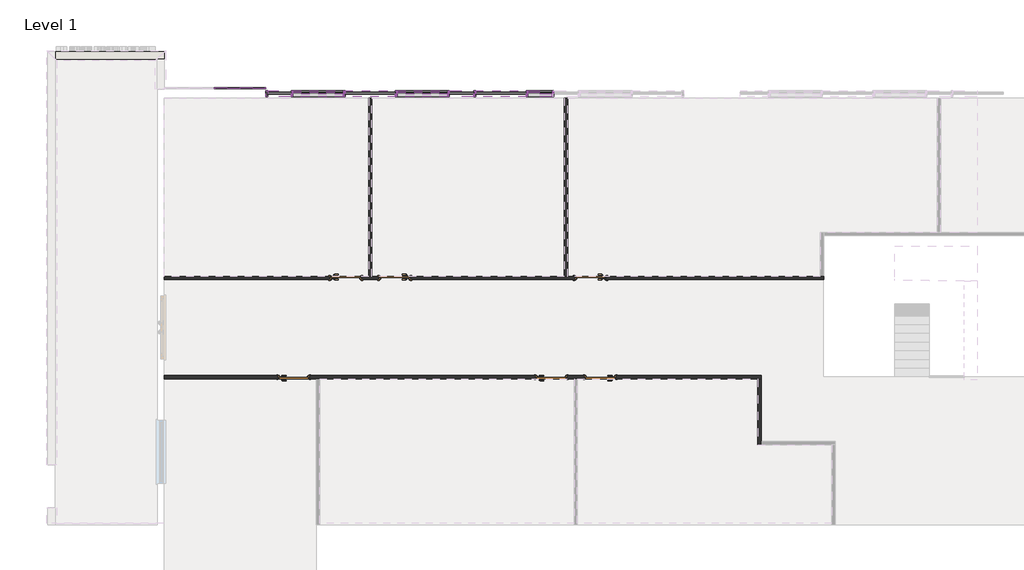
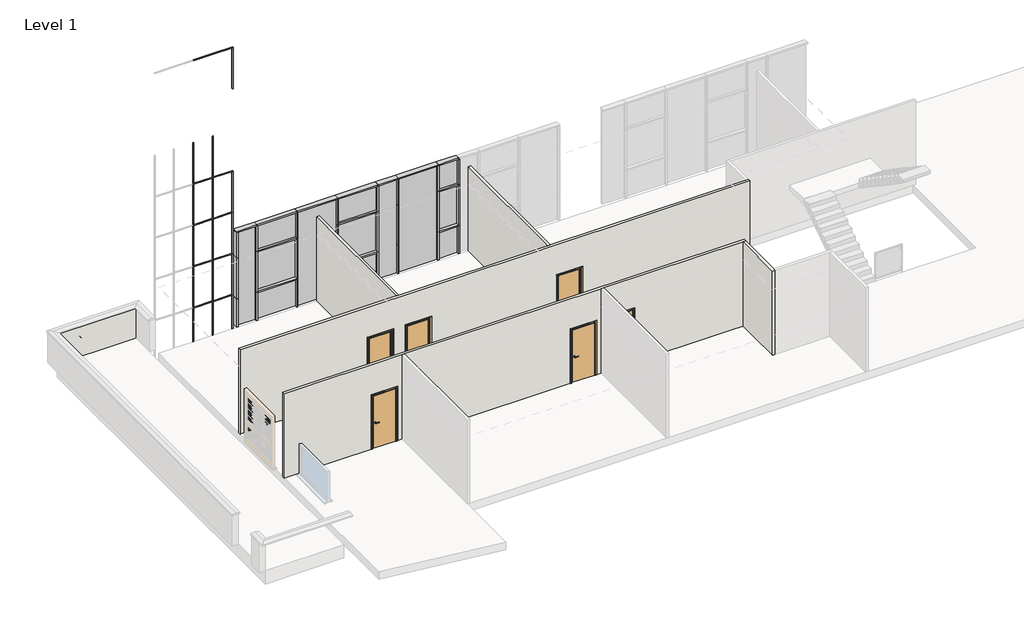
# One storey, part 4 of 10: 75 members, 13 plates, 6 doors, 6 walls.
"""IFC4 building model written with IfcOpenShell, lengths in millimetres."""

from ifc_helpers import new_model, si_unit, frame, origin, place, context, project, spatial, polyline, outline, extrude, faceted_brep, transform, mapped, element, save
from components import doors_intsgl_1_910x2110mm_004a08d5, doors_intsgl_1_910x2110mm_ba118736, rectangular_mullion_25x25mm_c4f1ea1c, rectangular_mullion_25x25mm_aa09272d, rectangular_mullion_25x25mm_87b81b05, rectangular_mullion_25x25mm_c524c6a9, rectangular_mullion_25x25mm_a3ff25c1, rectangular_mullion_25x25mm_a7b21d2d, rectangular_mullion_25x25mm_c63ed219, rectangular_mullion_50x180mm_27940352, rectangular_mullion_50x180mm_f781141c, rectangular_mullion_50x180mm_fd91253e, rectangular_mullion_50x180mm_cfc9efda, rectangular_mullion_50x180mm_c30fec06, rectangular_mullion_50x180mm_55b63a96, rectangular_mullion_50x180mm_7153291d, rectangular_mullion_50x180mm_95299f7d, rectangular_mullion_50x180mm_f19e9633, rectangular_mullion_50x180mm_b6846536, system_panel_black_panel_9c91f909, system_panel_black_panel_9e4711d2, system_panel_dark_grey_panel_1d6e0621, system_panel_glazed_dd63f223, system_panel_glazed_4915e1a0, system_panel_white_panel_6a64f577, system_panel_white_panel_a9ca731a, system_panel_white_panel_6c6c8c82, system_panel_white_panel_ff540c20

model = new_model("IFC4")

# Units and contexts
model_context = context("Model", 3, world=origin())
ifc_project = project(units=[si_unit("LENGTHUNIT", "METRE", prefix="MILLI")], contexts=[model_context])

# Site, building, storey
site = spatial("IfcSite", under=ifc_project)
building = spatial("IfcBuilding", under=site)
storey = spatial("IfcBuildingStorey", under=building, Name="Level 1", Elevation=3750.0)

# Doors
placement = place(None, origin())
doors_intsgl_1_910x2110mm_shape = doors_intsgl_1_910x2110mm_004a08d5(model_context)
element("IfcDoor", 1, ObjectType="Doors_IntSgl_1 : 910x2110mm", at=placement, inside=storey, context=model_context, shape_type="MappedRepresentation", body=[
    mapped(doors_intsgl_1_910x2110mm_shape, transform((3778.2942367, 3837.3025486, 3750.0), x_axis=(1.0, 0.0, 0.0), y_axis=(0.0, 1.0, 0.0), z_axis=(0.0, 0.0, 1.0))),
])
element("IfcDoor", 2, ObjectType="Doors_IntSgl_1 : 910x2110mm", at=placement, inside=storey, context=model_context, shape_type="MappedRepresentation", body=[
    mapped(doors_intsgl_1_910x2110mm_shape, transform((11085.7942367, 987.4946591, 3750.0), x_axis=(-1.0, 0.0, 0.0), y_axis=(0.0, -1.0, 0.0), z_axis=(0.0, 0.0, 1.0))),
])
doors_intsgl_1_910x2110mm_2_shape = doors_intsgl_1_910x2110mm_ba118736(model_context)
element("IfcDoor", 3, ObjectType="Doors_IntSgl_1 : 910x2110mm", at=placement, inside=storey, context=model_context, shape_type="MappedRepresentation", body=[
    mapped(doors_intsgl_1_910x2110mm_2_shape, transform((5183.2942367, 3837.3025486, 3750.0), x_axis=(-1.0, 0.0, 0.0), y_axis=(0.0, -1.0, 0.0), z_axis=(0.0, 0.0, 1.0))),
])
element("IfcDoor", 4, ObjectType="Doors_IntSgl_1 : 910x2110mm", at=placement, inside=storey, context=model_context, shape_type="MappedRepresentation", body=[
    mapped(doors_intsgl_1_910x2110mm_2_shape, transform((10808.2942367, 3837.3025486, 3750.0), x_axis=(-1.0, 0.0, 0.0), y_axis=(0.0, -1.0, 0.0), z_axis=(0.0, 0.0, 1.0))),
])
element("IfcDoor", 5, ObjectType="Doors_IntSgl_1 : 910x2110mm", at=placement, inside=storey, context=model_context, shape_type="MappedRepresentation", body=[
    mapped(doors_intsgl_1_910x2110mm_2_shape, transform((9680.7942367, 987.4946591, 3750.0), x_axis=(1.0, 0.0, 0.0), y_axis=(0.0, 1.0, 0.0), z_axis=(0.0, 0.0, 1.0))),
])
element("IfcDoor", 6, ObjectType="Doors_IntSgl_1 : 910x2110mm", at=placement, inside=storey, context=model_context, shape_type="MappedRepresentation", body=[
    mapped(doors_intsgl_1_910x2110mm_2_shape, transform((2280.7942367, 987.4946591, 3750.0), x_axis=(1.0, 0.0, 0.0), y_axis=(0.0, 1.0, 0.0), z_axis=(0.0, 0.0, 1.0))),
])

# Members
rectangular_mullion_25x25mm_shape = rectangular_mullion_25x25mm_c4f1ea1c(model_context)
element("IfcMember", 7, ObjectType="Rectangular Mullion : 25x25mm", at=placement, inside=storey, context=model_context, shape_type="MappedRepresentation", body=[
    mapped(rectangular_mullion_25x25mm_shape, transform((740.7900968, 9282.4946591, 14600.0), x_axis=(0.0, 0.0, 1.0), y_axis=(0.0, 1.0, 0.0), z_axis=(-1.0, 0.0, 0.0))),
])
rectangular_mullion_25x25mm_2_shape = rectangular_mullion_25x25mm_aa09272d(model_context)
element("IfcMember", 8, ObjectType="Rectangular Mullion : 25x25mm", at=placement, inside=storey, context=model_context, shape_type="MappedRepresentation", body=[
    mapped(rectangular_mullion_25x25mm_2_shape, transform((13.2859573, 9282.4946591, 14600.0), x_axis=(0.0, 0.0, 1.0), y_axis=(0.0, 1.0, 0.0), z_axis=(-1.0, 0.0, 0.0))),
])
element("IfcMember", 9, ObjectType="Rectangular Mullion : 25x25mm", at=placement, inside=storey, context=model_context, shape_type="MappedRepresentation", body=[
    mapped(rectangular_mullion_25x25mm_shape, transform((1480.7942367, 9282.4946591, 0.0), x_axis=(0.0, 0.0, -1.0), y_axis=(0.0, 1.0, 0.0), z_axis=(1.0, 0.0, 0.0))),
])
element("IfcMember", 10, ObjectType="Rectangular Mullion : 25x25mm", at=placement, inside=storey, context=model_context, shape_type="MappedRepresentation", body=[
    mapped(rectangular_mullion_25x25mm_2_shape, transform((740.7900968, 9282.4946591, 0.0), x_axis=(0.0, 0.0, -1.0), y_axis=(0.0, 1.0, 0.0), z_axis=(1.0, 0.0, 0.0))),
])
element("IfcMember", 11, ObjectType="Rectangular Mullion : 25x25mm", at=placement, inside=storey, context=model_context, shape_type="MappedRepresentation", body=[
    mapped(rectangular_mullion_25x25mm_2_shape, transform((13.2859573, 9282.4946591, 0.0), x_axis=(0.0, 0.0, -1.0), y_axis=(0.0, 1.0, 0.0), z_axis=(1.0, 0.0, 0.0))),
])
rectangular_mullion_25x25mm_3_shape = rectangular_mullion_25x25mm_87b81b05(model_context)
element("IfcMember", 12, ObjectType="Rectangular Mullion : 25x25mm", at=placement, inside=storey, context=model_context, shape_type="MappedRepresentation", body=[
    mapped(rectangular_mullion_25x25mm_3_shape, transform((753.2900968, 9282.4946591, 1631.9444444), x_axis=(0.0, 0.0, 1.0), y_axis=(0.0, 1.0, 0.0), z_axis=(-1.0, 0.0, 0.0))),
])
element("IfcMember", 13, ObjectType="Rectangular Mullion : 25x25mm", at=placement, inside=storey, context=model_context, shape_type="MappedRepresentation", body=[
    mapped(rectangular_mullion_25x25mm_3_shape, transform((25.7859573, 9282.4946591, 1631.9444444), x_axis=(0.0, 0.0, 1.0), y_axis=(0.0, 1.0, 0.0), z_axis=(-1.0, 0.0, 0.0))),
])
element("IfcMember", 14, ObjectType="Rectangular Mullion : 25x25mm", at=placement, inside=storey, context=model_context, shape_type="MappedRepresentation", body=[
    mapped(rectangular_mullion_25x25mm_3_shape, transform((753.2900968, 9282.4946591, 3251.3888889), x_axis=(0.0, 0.0, 1.0), y_axis=(0.0, 1.0, 0.0), z_axis=(-1.0, 0.0, 0.0))),
])
element("IfcMember", 15, ObjectType="Rectangular Mullion : 25x25mm", at=placement, inside=storey, context=model_context, shape_type="MappedRepresentation", body=[
    mapped(rectangular_mullion_25x25mm_3_shape, transform((25.7859573, 9282.4946591, 3251.3888889), x_axis=(0.0, 0.0, 1.0), y_axis=(0.0, 1.0, 0.0), z_axis=(-1.0, 0.0, 0.0))),
])
element("IfcMember", 16, ObjectType="Rectangular Mullion : 25x25mm", at=placement, inside=storey, context=model_context, shape_type="MappedRepresentation", body=[
    mapped(rectangular_mullion_25x25mm_3_shape, transform((753.2900968, 9282.4946591, 4870.8333333), x_axis=(0.0, 0.0, 1.0), y_axis=(0.0, 1.0, 0.0), z_axis=(-1.0, 0.0, 0.0))),
])
element("IfcMember", 17, ObjectType="Rectangular Mullion : 25x25mm", at=placement, inside=storey, context=model_context, shape_type="MappedRepresentation", body=[
    mapped(rectangular_mullion_25x25mm_3_shape, transform((25.7859573, 9282.4946591, 4870.8333333), x_axis=(0.0, 0.0, 1.0), y_axis=(0.0, 1.0, 0.0), z_axis=(-1.0, 0.0, 0.0))),
])
element("IfcMember", 18, ObjectType="Rectangular Mullion : 25x25mm", at=placement, inside=storey, context=model_context, shape_type="MappedRepresentation", body=[
    mapped(rectangular_mullion_25x25mm_3_shape, transform((753.2900968, 9282.4946591, 6490.2777778), x_axis=(0.0, 0.0, 1.0), y_axis=(0.0, 1.0, 0.0), z_axis=(-1.0, 0.0, 0.0))),
])
element("IfcMember", 19, ObjectType="Rectangular Mullion : 25x25mm", at=placement, inside=storey, context=model_context, shape_type="MappedRepresentation", body=[
    mapped(rectangular_mullion_25x25mm_3_shape, transform((25.7859573, 9282.4946591, 6490.2777778), x_axis=(0.0, 0.0, 1.0), y_axis=(0.0, 1.0, 0.0), z_axis=(-1.0, 0.0, 0.0))),
])
element("IfcMember", 20, ObjectType="Rectangular Mullion : 25x25mm", at=placement, inside=storey, context=model_context, shape_type="MappedRepresentation", body=[
    mapped(rectangular_mullion_25x25mm_3_shape, transform((753.2900968, 9282.4946591, 8109.7222222), x_axis=(0.0, 0.0, 1.0), y_axis=(0.0, 1.0, 0.0), z_axis=(-1.0, 0.0, 0.0))),
])
element("IfcMember", 21, ObjectType="Rectangular Mullion : 25x25mm", at=placement, inside=storey, context=model_context, shape_type="MappedRepresentation", body=[
    mapped(rectangular_mullion_25x25mm_3_shape, transform((25.7859573, 9282.4946591, 8109.7222222), x_axis=(0.0, 0.0, 1.0), y_axis=(0.0, 1.0, 0.0), z_axis=(-1.0, 0.0, 0.0))),
])
element("IfcMember", 22, ObjectType="Rectangular Mullion : 25x25mm", at=placement, inside=storey, context=model_context, shape_type="MappedRepresentation", body=[
    mapped(rectangular_mullion_25x25mm_3_shape, transform((753.2900968, 9282.4946591, 9729.1666667), x_axis=(0.0, 0.0, 1.0), y_axis=(0.0, 1.0, 0.0), z_axis=(-1.0, 0.0, 0.0))),
])
element("IfcMember", 23, ObjectType="Rectangular Mullion : 25x25mm", at=placement, inside=storey, context=model_context, shape_type="MappedRepresentation", body=[
    mapped(rectangular_mullion_25x25mm_3_shape, transform((25.7859573, 9282.4946591, 9729.1666667), x_axis=(0.0, 0.0, 1.0), y_axis=(0.0, 1.0, 0.0), z_axis=(-1.0, 0.0, 0.0))),
])
rectangular_mullion_25x25mm_4_shape = rectangular_mullion_25x25mm_c524c6a9(model_context)
element("IfcMember", 24, ObjectType="Rectangular Mullion : 25x25mm", at=placement, inside=storey, context=model_context, shape_type="MappedRepresentation", body=[
    mapped(rectangular_mullion_25x25mm_4_shape, transform((740.7900968, 9282.4946591, 25.0), x_axis=(-1.0, 0.0, 0.0), y_axis=(0.0, 1.0, 0.0), z_axis=(0.0, 0.0, -1.0))),
])
element("IfcMember", 25, ObjectType="Rectangular Mullion : 25x25mm", at=placement, inside=storey, context=model_context, shape_type="MappedRepresentation", body=[
    mapped(rectangular_mullion_25x25mm_4_shape, transform((13.2859573, 9282.4946591, 25.0), x_axis=(-1.0, 0.0, 0.0), y_axis=(0.0, 1.0, 0.0), z_axis=(0.0, 0.0, -1.0))),
])
rectangular_mullion_25x25mm_5_shape = rectangular_mullion_25x25mm_a3ff25c1(model_context)
element("IfcMember", 26, ObjectType="Rectangular Mullion : 25x25mm", at=placement, inside=storey, context=model_context, shape_type="MappedRepresentation", body=[
    mapped(rectangular_mullion_25x25mm_5_shape, transform((740.7900968, 9282.4946591, 1631.9444444), x_axis=(-1.0, 0.0, 0.0), y_axis=(0.0, 1.0, 0.0), z_axis=(0.0, 0.0, -1.0))),
])
element("IfcMember", 27, ObjectType="Rectangular Mullion : 25x25mm", at=placement, inside=storey, context=model_context, shape_type="MappedRepresentation", body=[
    mapped(rectangular_mullion_25x25mm_5_shape, transform((740.7900968, 9282.4946591, 3251.3888889), x_axis=(-1.0, 0.0, 0.0), y_axis=(0.0, 1.0, 0.0), z_axis=(0.0, 0.0, -1.0))),
])
element("IfcMember", 28, ObjectType="Rectangular Mullion : 25x25mm", at=placement, inside=storey, context=model_context, shape_type="MappedRepresentation", body=[
    mapped(rectangular_mullion_25x25mm_5_shape, transform((740.7900968, 9282.4946591, 4870.8333333), x_axis=(-1.0, 0.0, 0.0), y_axis=(0.0, 1.0, 0.0), z_axis=(0.0, 0.0, -1.0))),
])
element("IfcMember", 29, ObjectType="Rectangular Mullion : 25x25mm", at=placement, inside=storey, context=model_context, shape_type="MappedRepresentation", body=[
    mapped(rectangular_mullion_25x25mm_5_shape, transform((740.7900968, 9282.4946591, 6490.2777778), x_axis=(-1.0, 0.0, 0.0), y_axis=(0.0, 1.0, 0.0), z_axis=(0.0, 0.0, -1.0))),
])
element("IfcMember", 30, ObjectType="Rectangular Mullion : 25x25mm", at=placement, inside=storey, context=model_context, shape_type="MappedRepresentation", body=[
    mapped(rectangular_mullion_25x25mm_5_shape, transform((13.2859573, 9282.4946591, 1631.9444444), x_axis=(-1.0, 0.0, 0.0), y_axis=(0.0, 1.0, 0.0), z_axis=(0.0, 0.0, -1.0))),
])
element("IfcMember", 31, ObjectType="Rectangular Mullion : 25x25mm", at=placement, inside=storey, context=model_context, shape_type="MappedRepresentation", body=[
    mapped(rectangular_mullion_25x25mm_5_shape, transform((13.2859573, 9282.4946591, 3251.3888889), x_axis=(-1.0, 0.0, 0.0), y_axis=(0.0, 1.0, 0.0), z_axis=(0.0, 0.0, -1.0))),
])
element("IfcMember", 32, ObjectType="Rectangular Mullion : 25x25mm", at=placement, inside=storey, context=model_context, shape_type="MappedRepresentation", body=[
    mapped(rectangular_mullion_25x25mm_5_shape, transform((13.2859573, 9282.4946591, 4870.8333333), x_axis=(-1.0, 0.0, 0.0), y_axis=(0.0, 1.0, 0.0), z_axis=(0.0, 0.0, -1.0))),
])
element("IfcMember", 33, ObjectType="Rectangular Mullion : 25x25mm", at=placement, inside=storey, context=model_context, shape_type="MappedRepresentation", body=[
    mapped(rectangular_mullion_25x25mm_5_shape, transform((13.2859573, 9282.4946591, 6490.2777778), x_axis=(-1.0, 0.0, 0.0), y_axis=(0.0, 1.0, 0.0), z_axis=(0.0, 0.0, -1.0))),
])
element("IfcMember", 34, ObjectType="Rectangular Mullion : 25x25mm", at=placement, inside=storey, context=model_context, shape_type="MappedRepresentation", body=[
    mapped(rectangular_mullion_25x25mm_5_shape, transform((740.7900968, 9282.4946591, 8109.7222222), x_axis=(-1.0, 0.0, 0.0), y_axis=(0.0, 1.0, 0.0), z_axis=(0.0, 0.0, -1.0))),
])
element("IfcMember", 35, ObjectType="Rectangular Mullion : 25x25mm", at=placement, inside=storey, context=model_context, shape_type="MappedRepresentation", body=[
    mapped(rectangular_mullion_25x25mm_5_shape, transform((740.7900968, 9282.4946591, 9729.1666667), x_axis=(-1.0, 0.0, 0.0), y_axis=(0.0, 1.0, 0.0), z_axis=(0.0, 0.0, -1.0))),
])
element("IfcMember", 36, ObjectType="Rectangular Mullion : 25x25mm", at=placement, inside=storey, context=model_context, shape_type="MappedRepresentation", body=[
    mapped(rectangular_mullion_25x25mm_5_shape, transform((13.2859573, 9282.4946591, 8109.7222222), x_axis=(-1.0, 0.0, 0.0), y_axis=(0.0, 1.0, 0.0), z_axis=(0.0, 0.0, -1.0))),
])
element("IfcMember", 37, ObjectType="Rectangular Mullion : 25x25mm", at=placement, inside=storey, context=model_context, shape_type="MappedRepresentation", body=[
    mapped(rectangular_mullion_25x25mm_5_shape, transform((13.2859573, 9282.4946591, 9729.1666667), x_axis=(-1.0, 0.0, 0.0), y_axis=(0.0, 1.0, 0.0), z_axis=(0.0, 0.0, -1.0))),
])
rectangular_mullion_25x25mm_6_shape = rectangular_mullion_25x25mm_a7b21d2d(model_context)
element("IfcMember", 38, ObjectType="Rectangular Mullion : 25x25mm", at=placement, inside=storey, context=model_context, shape_type="MappedRepresentation", body=[
    mapped(rectangular_mullion_25x25mm_6_shape, transform((1480.7942367, 9282.4946591, 1631.9444444), x_axis=(1.0, 0.0, 0.0), y_axis=(0.0, 1.0, 0.0), z_axis=(0.0, 0.0, 1.0))),
])
rectangular_mullion_25x25mm_7_shape = rectangular_mullion_25x25mm_c63ed219(model_context)
element("IfcMember", 39, ObjectType="Rectangular Mullion : 25x25mm", at=placement, inside=storey, context=model_context, shape_type="MappedRepresentation", body=[
    mapped(rectangular_mullion_25x25mm_7_shape, transform((1480.7942367, 9282.4946591, 3251.3888889), x_axis=(1.0, 0.0, 0.0), y_axis=(0.0, 1.0, 0.0), z_axis=(0.0, 0.0, 1.0))),
])
element("IfcMember", 40, ObjectType="Rectangular Mullion : 25x25mm", at=placement, inside=storey, context=model_context, shape_type="MappedRepresentation", body=[
    mapped(rectangular_mullion_25x25mm_7_shape, transform((1480.7942367, 9282.4946591, 4870.8333333), x_axis=(1.0, 0.0, 0.0), y_axis=(0.0, 1.0, 0.0), z_axis=(0.0, 0.0, 1.0))),
])
element("IfcMember", 41, ObjectType="Rectangular Mullion : 25x25mm", at=placement, inside=storey, context=model_context, shape_type="MappedRepresentation", body=[
    mapped(rectangular_mullion_25x25mm_7_shape, transform((1480.7942367, 9282.4946591, 6490.2777778), x_axis=(1.0, 0.0, 0.0), y_axis=(0.0, 1.0, 0.0), z_axis=(0.0, 0.0, 1.0))),
])
element("IfcMember", 42, ObjectType="Rectangular Mullion : 25x25mm", at=placement, inside=storey, context=model_context, shape_type="MappedRepresentation", body=[
    mapped(rectangular_mullion_25x25mm_7_shape, transform((1480.7942367, 9282.4946591, 8109.7222222), x_axis=(1.0, 0.0, 0.0), y_axis=(0.0, 1.0, 0.0), z_axis=(0.0, 0.0, 1.0))),
])
element("IfcMember", 43, ObjectType="Rectangular Mullion : 25x25mm", at=placement, inside=storey, context=model_context, shape_type="MappedRepresentation", body=[
    mapped(rectangular_mullion_25x25mm_7_shape, transform((1480.7942367, 9282.4946591, 9729.1666667), x_axis=(1.0, 0.0, 0.0), y_axis=(0.0, 1.0, 0.0), z_axis=(0.0, 0.0, 1.0))),
])
element("IfcMember", 44, ObjectType="Rectangular Mullion : 25x25mm", at=placement, inside=storey, context=model_context, shape_type="MappedRepresentation", body=[
    mapped(rectangular_mullion_25x25mm_6_shape, transform((1480.7942367, 9282.4946591, 14575.0), x_axis=(1.0, 0.0, 0.0), y_axis=(0.0, 1.0, 0.0), z_axis=(0.0, 0.0, 1.0))),
])
rectangular_mullion_50x180mm_shape = rectangular_mullion_50x180mm_27940352(model_context)
element("IfcMember", 45, ObjectType="Rectangular Mullion : 50x180mm", at=placement, inside=storey, context=model_context, shape_type="MappedRepresentation", body=[
    mapped(rectangular_mullion_50x180mm_shape, transform((9730.7942367, 9132.4946591, 3750.0), x_axis=(1.0, 0.0, 0.0), y_axis=(0.0, -1.0, 0.0), z_axis=(0.0, 0.0, -1.0))),
])
element("IfcMember", 46, ObjectType="Rectangular Mullion : 50x180mm", at=placement, inside=storey, context=model_context, shape_type="MappedRepresentation", body=[
    mapped(rectangular_mullion_50x180mm_shape, transform((8980.7942367, 9132.4946591, 3750.0), x_axis=(1.0, 0.0, 0.0), y_axis=(0.0, -1.0, 0.0), z_axis=(0.0, 0.0, -1.0))),
])
element("IfcMember", 47, ObjectType="Rectangular Mullion : 50x180mm", at=placement, inside=storey, context=model_context, shape_type="MappedRepresentation", body=[
    mapped(rectangular_mullion_50x180mm_shape, transform((6730.7942367, 9132.4946591, 3750.0), x_axis=(1.0, 0.0, 0.0), y_axis=(0.0, -1.0, 0.0), z_axis=(0.0, 0.0, -1.0))),
])
element("IfcMember", 48, ObjectType="Rectangular Mullion : 50x180mm", at=placement, inside=storey, context=model_context, shape_type="MappedRepresentation", body=[
    mapped(rectangular_mullion_50x180mm_shape, transform((5230.7942367, 9132.4946591, 3750.0), x_axis=(1.0, 0.0, 0.0), y_axis=(0.0, -1.0, 0.0), z_axis=(0.0, 0.0, -1.0))),
])
element("IfcMember", 49, ObjectType="Rectangular Mullion : 50x180mm", at=placement, inside=storey, context=model_context, shape_type="MappedRepresentation", body=[
    mapped(rectangular_mullion_50x180mm_shape, transform((2230.7942367, 9132.4946591, 3750.0), x_axis=(1.0, 0.0, 0.0), y_axis=(0.0, -1.0, 0.0), z_axis=(0.0, 0.0, -1.0))),
])
element("IfcMember", 50, ObjectType="Rectangular Mullion : 50x180mm", at=placement, inside=storey, context=model_context, shape_type="MappedRepresentation", body=[
    mapped(rectangular_mullion_50x180mm_shape, transform((3730.7942367, 9132.4946591, 3750.0), x_axis=(1.0, 0.0, 0.0), y_axis=(0.0, -1.0, 0.0), z_axis=(0.0, 0.0, -1.0))),
])
element("IfcMember", 51, ObjectType="Rectangular Mullion : 50x180mm", at=placement, inside=storey, context=model_context, shape_type="MappedRepresentation", body=[
    mapped(rectangular_mullion_50x180mm_shape, transform((7480.7942367, 9132.4946591, 3750.0), x_axis=(1.0, 0.0, 0.0), y_axis=(0.0, -1.0, 0.0), z_axis=(0.0, 0.0, -1.0))),
])
rectangular_mullion_50x180mm_2_shape = rectangular_mullion_50x180mm_f781141c(model_context)
element("IfcMember", 52, ObjectType="Rectangular Mullion : 50x180mm", at=placement, inside=storey, context=model_context, shape_type="MappedRepresentation", body=[
    mapped(rectangular_mullion_50x180mm_2_shape, transform((2230.7942367, 9132.4946591, 4850.0), x_axis=(1.0, 0.0, 0.0), y_axis=(0.0, -1.0, 0.0), z_axis=(0.0, 0.0, -1.0))),
])
element("IfcMember", 53, ObjectType="Rectangular Mullion : 50x180mm", at=placement, inside=storey, context=model_context, shape_type="MappedRepresentation", body=[
    mapped(rectangular_mullion_50x180mm_2_shape, transform((3730.7942367, 9132.4946591, 4850.0), x_axis=(1.0, 0.0, 0.0), y_axis=(0.0, -1.0, 0.0), z_axis=(0.0, 0.0, -1.0))),
])
element("IfcMember", 54, ObjectType="Rectangular Mullion : 50x180mm", at=placement, inside=storey, context=model_context, shape_type="MappedRepresentation", body=[
    mapped(rectangular_mullion_50x180mm_2_shape, transform((5230.7942367, 9132.4946591, 4850.0), x_axis=(1.0, 0.0, 0.0), y_axis=(0.0, -1.0, 0.0), z_axis=(0.0, 0.0, -1.0))),
])
element("IfcMember", 55, ObjectType="Rectangular Mullion : 50x180mm", at=placement, inside=storey, context=model_context, shape_type="MappedRepresentation", body=[
    mapped(rectangular_mullion_50x180mm_2_shape, transform((6730.7942367, 9132.4946591, 4850.0), x_axis=(1.0, 0.0, 0.0), y_axis=(0.0, -1.0, 0.0), z_axis=(0.0, 0.0, -1.0))),
])
element("IfcMember", 56, ObjectType="Rectangular Mullion : 50x180mm", at=placement, inside=storey, context=model_context, shape_type="MappedRepresentation", body=[
    mapped(rectangular_mullion_50x180mm_2_shape, transform((8980.7942367, 9132.4946591, 4850.0), x_axis=(1.0, 0.0, 0.0), y_axis=(0.0, -1.0, 0.0), z_axis=(0.0, 0.0, -1.0))),
])
element("IfcMember", 57, ObjectType="Rectangular Mullion : 50x180mm", at=placement, inside=storey, context=model_context, shape_type="MappedRepresentation", body=[
    mapped(rectangular_mullion_50x180mm_2_shape, transform((9730.7942367, 9132.4946591, 4850.0), x_axis=(1.0, 0.0, 0.0), y_axis=(0.0, -1.0, 0.0), z_axis=(0.0, 0.0, -1.0))),
])
element("IfcMember", 58, ObjectType="Rectangular Mullion : 50x180mm", at=placement, inside=storey, context=model_context, shape_type="MappedRepresentation", body=[
    mapped(rectangular_mullion_50x180mm_2_shape, transform((7480.7942367, 9132.4946591, 4850.0), x_axis=(1.0, 0.0, 0.0), y_axis=(0.0, -1.0, 0.0), z_axis=(0.0, 0.0, -1.0))),
])
rectangular_mullion_50x180mm_3_shape = rectangular_mullion_50x180mm_fd91253e(model_context)
element("IfcMember", 59, ObjectType="Rectangular Mullion : 50x180mm", at=placement, inside=storey, context=model_context, shape_type="MappedRepresentation", body=[
    mapped(rectangular_mullion_50x180mm_3_shape, transform((3705.7942367, 9132.4946591, 4850.0), x_axis=(0.0, 0.0, 1.0), y_axis=(0.0, -1.0, 0.0), z_axis=(1.0, 0.0, 0.0))),
])
element("IfcMember", 60, ObjectType="Rectangular Mullion : 50x180mm", at=placement, inside=storey, context=model_context, shape_type="MappedRepresentation", body=[
    mapped(rectangular_mullion_50x180mm_3_shape, transform((6705.7942367, 9132.4946591, 4850.0), x_axis=(0.0, 0.0, 1.0), y_axis=(0.0, -1.0, 0.0), z_axis=(1.0, 0.0, 0.0))),
])
element("IfcMember", 61, ObjectType="Rectangular Mullion : 50x180mm", at=placement, inside=storey, context=model_context, shape_type="MappedRepresentation", body=[
    mapped(rectangular_mullion_50x180mm_3_shape, transform((3705.7942367, 9132.4946591, 6450.0), x_axis=(0.0, 0.0, 1.0), y_axis=(0.0, -1.0, 0.0), z_axis=(1.0, 0.0, 0.0))),
])
element("IfcMember", 62, ObjectType="Rectangular Mullion : 50x180mm", at=placement, inside=storey, context=model_context, shape_type="MappedRepresentation", body=[
    mapped(rectangular_mullion_50x180mm_3_shape, transform((6705.7942367, 9132.4946591, 6450.0), x_axis=(0.0, 0.0, 1.0), y_axis=(0.0, -1.0, 0.0), z_axis=(1.0, 0.0, 0.0))),
])
rectangular_mullion_50x180mm_4_shape = rectangular_mullion_50x180mm_cfc9efda(model_context)
element("IfcMember", 63, ObjectType="Rectangular Mullion : 50x180mm", at=placement, inside=storey, context=model_context, shape_type="MappedRepresentation", body=[
    mapped(rectangular_mullion_50x180mm_4_shape, transform((9705.7942367, 9132.4946591, 6450.0), x_axis=(0.0, 0.0, 1.0), y_axis=(0.0, -1.0, 0.0), z_axis=(1.0, 0.0, 0.0))),
])
element("IfcMember", 64, ObjectType="Rectangular Mullion : 50x180mm", at=placement, inside=storey, context=model_context, shape_type="MappedRepresentation", body=[
    mapped(rectangular_mullion_50x180mm_4_shape, transform((9705.7942367, 9132.4946591, 4850.0), x_axis=(0.0, 0.0, 1.0), y_axis=(0.0, -1.0, 0.0), z_axis=(1.0, 0.0, 0.0))),
])
rectangular_mullion_50x180mm_5_shape = rectangular_mullion_50x180mm_c30fec06(model_context)
element("IfcMember", 65, ObjectType="Rectangular Mullion : 50x180mm", at=placement, inside=storey, context=model_context, shape_type="MappedRepresentation", body=[
    mapped(rectangular_mullion_50x180mm_5_shape, transform((3730.7942367, 9132.4946591, 7500.0), x_axis=(0.0, 0.0, 1.0), y_axis=(0.0, -1.0, 0.0), z_axis=(1.0, 0.0, 0.0))),
])
element("IfcMember", 66, ObjectType="Rectangular Mullion : 50x180mm", at=placement, inside=storey, context=model_context, shape_type="MappedRepresentation", body=[
    mapped(rectangular_mullion_50x180mm_5_shape, transform((5230.7942367, 9132.4946591, 7500.0), x_axis=(0.0, 0.0, 1.0), y_axis=(0.0, -1.0, 0.0), z_axis=(1.0, 0.0, 0.0))),
])
element("IfcMember", 67, ObjectType="Rectangular Mullion : 50x180mm", at=placement, inside=storey, context=model_context, shape_type="MappedRepresentation", body=[
    mapped(rectangular_mullion_50x180mm_5_shape, transform((6730.7942367, 9132.4946591, 7500.0), x_axis=(0.0, 0.0, 1.0), y_axis=(0.0, -1.0, 0.0), z_axis=(1.0, 0.0, 0.0))),
])
element("IfcMember", 68, ObjectType="Rectangular Mullion : 50x180mm", at=placement, inside=storey, context=model_context, shape_type="MappedRepresentation", body=[
    mapped(rectangular_mullion_50x180mm_5_shape, transform((8980.7942367, 9132.4946591, 7500.0), x_axis=(0.0, 0.0, 1.0), y_axis=(0.0, -1.0, 0.0), z_axis=(1.0, 0.0, 0.0))),
])
rectangular_mullion_50x180mm_6_shape = rectangular_mullion_50x180mm_55b63a96(model_context)
element("IfcMember", 69, ObjectType="Rectangular Mullion : 50x180mm", at=placement, inside=storey, context=model_context, shape_type="MappedRepresentation", body=[
    mapped(rectangular_mullion_50x180mm_6_shape, transform((7480.7942367, 9132.4946591, 7500.0), x_axis=(0.0, 0.0, 1.0), y_axis=(0.0, -1.0, 0.0), z_axis=(1.0, 0.0, 0.0))),
])
element("IfcMember", 70, ObjectType="Rectangular Mullion : 50x180mm", at=placement, inside=storey, context=model_context, shape_type="MappedRepresentation", body=[
    mapped(rectangular_mullion_50x180mm_6_shape, transform((9730.7942367, 9132.4946591, 7500.0), x_axis=(0.0, 0.0, 1.0), y_axis=(0.0, -1.0, 0.0), z_axis=(1.0, 0.0, 0.0))),
])
rectangular_mullion_50x180mm_7_shape = rectangular_mullion_50x180mm_7153291d(model_context)
element("IfcMember", 71, ObjectType="Rectangular Mullion : 50x180mm", at=placement, inside=storey, context=model_context, shape_type="MappedRepresentation", body=[
    mapped(rectangular_mullion_50x180mm_7_shape, transform((1480.7942367, 9132.4946591, 4850.0), x_axis=(-1.0, 0.0, 0.0), y_axis=(0.0, -1.0, 0.0), z_axis=(0.0, 0.0, 1.0))),
])
rectangular_mullion_50x180mm_8_shape = rectangular_mullion_50x180mm_95299f7d(model_context)
element("IfcMember", 72, ObjectType="Rectangular Mullion : 50x180mm", at=placement, inside=storey, context=model_context, shape_type="MappedRepresentation", body=[
    mapped(rectangular_mullion_50x180mm_8_shape, transform((1480.7942367, 9132.4946591, 6450.0), x_axis=(-1.0, 0.0, 0.0), y_axis=(0.0, -1.0, 0.0), z_axis=(0.0, 0.0, 1.0))),
])
element("IfcMember", 73, ObjectType="Rectangular Mullion : 50x180mm", at=placement, inside=storey, context=model_context, shape_type="MappedRepresentation", body=[
    mapped(rectangular_mullion_50x180mm_6_shape, transform((2230.7942367, 9132.4946591, 7500.0), x_axis=(0.0, 0.0, 1.0), y_axis=(0.0, -1.0, 0.0), z_axis=(1.0, 0.0, 0.0))),
])
rectangular_mullion_50x180mm_9_shape = rectangular_mullion_50x180mm_f19e9633(model_context)
element("IfcMember", 74, ObjectType="Rectangular Mullion : 50x180mm", at=placement, inside=storey, context=model_context, shape_type="MappedRepresentation", body=[
    mapped(rectangular_mullion_50x180mm_9_shape, transform((8980.7942367, 9132.4946591, 6450.0), x_axis=(1.0, 0.0, 0.0), y_axis=(0.0, -1.0, 0.0), z_axis=(0.0, 0.0, -1.0))),
])
element("IfcMember", 75, ObjectType="Rectangular Mullion : 50x180mm", at=placement, inside=storey, context=model_context, shape_type="MappedRepresentation", body=[
    mapped(rectangular_mullion_50x180mm_9_shape, transform((9730.7942367, 9132.4946591, 6450.0), x_axis=(1.0, 0.0, 0.0), y_axis=(0.0, -1.0, 0.0), z_axis=(0.0, 0.0, -1.0))),
])
element("IfcMember", 76, ObjectType="Rectangular Mullion : 50x180mm", at=placement, inside=storey, context=model_context, shape_type="MappedRepresentation", body=[
    mapped(rectangular_mullion_50x180mm_9_shape, transform((6730.7942367, 9132.4946591, 6450.0), x_axis=(1.0, 0.0, 0.0), y_axis=(0.0, -1.0, 0.0), z_axis=(0.0, 0.0, -1.0))),
])
element("IfcMember", 77, ObjectType="Rectangular Mullion : 50x180mm", at=placement, inside=storey, context=model_context, shape_type="MappedRepresentation", body=[
    mapped(rectangular_mullion_50x180mm_9_shape, transform((5230.7942367, 9132.4946591, 6450.0), x_axis=(1.0, 0.0, 0.0), y_axis=(0.0, -1.0, 0.0), z_axis=(0.0, 0.0, -1.0))),
])
element("IfcMember", 78, ObjectType="Rectangular Mullion : 50x180mm", at=placement, inside=storey, context=model_context, shape_type="MappedRepresentation", body=[
    mapped(rectangular_mullion_50x180mm_9_shape, transform((2230.7942367, 9132.4946591, 6450.0), x_axis=(1.0, 0.0, 0.0), y_axis=(0.0, -1.0, 0.0), z_axis=(0.0, 0.0, -1.0))),
])
element("IfcMember", 79, ObjectType="Rectangular Mullion : 50x180mm", at=placement, inside=storey, context=model_context, shape_type="MappedRepresentation", body=[
    mapped(rectangular_mullion_50x180mm_9_shape, transform((3730.7942367, 9132.4946591, 6450.0), x_axis=(1.0, 0.0, 0.0), y_axis=(0.0, -1.0, 0.0), z_axis=(0.0, 0.0, -1.0))),
])
element("IfcMember", 80, ObjectType="Rectangular Mullion : 50x180mm", at=placement, inside=storey, context=model_context, shape_type="MappedRepresentation", body=[
    mapped(rectangular_mullion_50x180mm_9_shape, transform((7480.7942367, 9132.4946591, 6450.0), x_axis=(1.0, 0.0, 0.0), y_axis=(0.0, -1.0, 0.0), z_axis=(0.0, 0.0, -1.0))),
])
rectangular_mullion_50x180mm_10_shape = rectangular_mullion_50x180mm_b6846536(model_context)
element("IfcMember", 81, ObjectType="Rectangular Mullion : 50x180mm", at=placement, inside=storey, context=model_context, shape_type="MappedRepresentation", body=[
    mapped(rectangular_mullion_50x180mm_10_shape, transform((1480.7942367, 9132.4946591, 7450.0), x_axis=(-1.0, 0.0, 0.0), y_axis=(0.0, -1.0, 0.0), z_axis=(0.0, 0.0, 1.0))),
])

# Plates
system_panel_black_panel_shape = system_panel_black_panel_9c91f909(model_context)
element("IfcPlate", 82, ObjectType="System Panel : Black-Panel", at=placement, inside=storey, context=model_context, shape_type="MappedRepresentation", body=[
    mapped(system_panel_black_panel_shape, transform((1868.2942367, 9132.4946591, 3750.0), x_axis=(1.0, 0.0, 0.0), y_axis=(0.0, 1.0, 0.0), z_axis=(0.0, 0.0, 1.0))),
])
system_panel_black_panel_2_shape = system_panel_black_panel_9e4711d2(model_context)
element("IfcPlate", 83, ObjectType="System Panel : Black-Panel", at=placement, inside=storey, context=model_context, shape_type="MappedRepresentation", body=[
    mapped(system_panel_black_panel_2_shape, transform((7105.7942367, 9132.4946591, 3750.0), x_axis=(1.0, 0.0, 0.0), y_axis=(0.0, 1.0, 0.0), z_axis=(0.0, 0.0, 1.0))),
])
system_panel_dark_grey_panel_shape = system_panel_dark_grey_panel_1d6e0621(model_context)
element("IfcPlate", 84, ObjectType="System Panel : Dark Grey-Panel", at=placement, inside=storey, context=model_context, shape_type="MappedRepresentation", body=[
    mapped(system_panel_dark_grey_panel_shape, transform((8230.7942367, 9132.4946591, 3750.0), x_axis=(1.0, 0.0, 0.0), y_axis=(0.0, 1.0, 0.0), z_axis=(0.0, 0.0, 1.0))),
])
element("IfcPlate", 85, ObjectType="System Panel : Dark Grey-Panel", at=placement, inside=storey, context=model_context, shape_type="MappedRepresentation", body=[
    mapped(system_panel_dark_grey_panel_shape, transform((4480.7942367, 9132.4946591, 3750.0), x_axis=(1.0, 0.0, 0.0), y_axis=(0.0, 1.0, 0.0), z_axis=(0.0, 0.0, 1.0))),
])
system_panel_glazed_shape = system_panel_glazed_dd63f223(model_context)
element("IfcPlate", 86, ObjectType="System Panel : Glazed", at=placement, inside=storey, context=model_context, shape_type="MappedRepresentation", body=[
    mapped(system_panel_glazed_shape, transform((9355.7942367, 9132.4946591, 4875.0), x_axis=(1.0, 0.0, 0.0), y_axis=(0.0, 1.0, 0.0), z_axis=(0.0, 0.0, 1.0))),
])
system_panel_glazed_2_shape = system_panel_glazed_4915e1a0(model_context)
element("IfcPlate", 87, ObjectType="System Panel : Glazed", at=placement, inside=storey, context=model_context, shape_type="MappedRepresentation", body=[
    mapped(system_panel_glazed_2_shape, transform((5980.7942367, 9132.4946591, 4875.0), x_axis=(1.0, 0.0, 0.0), y_axis=(0.0, 1.0, 0.0), z_axis=(0.0, 0.0, 1.0))),
])
element("IfcPlate", 88, ObjectType="System Panel : Glazed", at=placement, inside=storey, context=model_context, shape_type="MappedRepresentation", body=[
    mapped(system_panel_glazed_2_shape, transform((2980.7942367, 9132.4946591, 4875.0), x_axis=(1.0, 0.0, 0.0), y_axis=(0.0, 1.0, 0.0), z_axis=(0.0, 0.0, 1.0))),
])
system_panel_white_panel_shape = system_panel_white_panel_6a64f577(model_context)
element("IfcPlate", 89, ObjectType="System Panel : White-Panel", at=placement, inside=storey, context=model_context, shape_type="MappedRepresentation", body=[
    mapped(system_panel_white_panel_shape, transform((5980.7942367, 9132.4946591, 3750.0), x_axis=(1.0, 0.0, 0.0), y_axis=(0.0, 1.0, 0.0), z_axis=(0.0, 0.0, 1.0))),
])
element("IfcPlate", 90, ObjectType="System Panel : White-Panel", at=placement, inside=storey, context=model_context, shape_type="MappedRepresentation", body=[
    mapped(system_panel_white_panel_shape, transform((2980.7942367, 9132.4946591, 3750.0), x_axis=(1.0, 0.0, 0.0), y_axis=(0.0, 1.0, 0.0), z_axis=(0.0, 0.0, 1.0))),
])
system_panel_white_panel_2_shape = system_panel_white_panel_a9ca731a(model_context)
element("IfcPlate", 91, ObjectType="System Panel : White-Panel", at=placement, inside=storey, context=model_context, shape_type="MappedRepresentation", body=[
    mapped(system_panel_white_panel_2_shape, transform((9355.7942367, 9132.4946591, 3750.0), x_axis=(1.0, 0.0, 0.0), y_axis=(0.0, 1.0, 0.0), z_axis=(0.0, 0.0, 1.0))),
])
system_panel_white_panel_3_shape = system_panel_white_panel_6c6c8c82(model_context)
element("IfcPlate", 92, ObjectType="System Panel : White-Panel", at=placement, inside=storey, context=model_context, shape_type="MappedRepresentation", body=[
    mapped(system_panel_white_panel_3_shape, transform((9355.7942367, 9132.4946591, 6475.0), x_axis=(1.0, 0.0, 0.0), y_axis=(0.0, 1.0, 0.0), z_axis=(0.0, 0.0, 1.0))),
])
system_panel_white_panel_4_shape = system_panel_white_panel_ff540c20(model_context)
element("IfcPlate", 93, ObjectType="System Panel : White-Panel", at=placement, inside=storey, context=model_context, shape_type="MappedRepresentation", body=[
    mapped(system_panel_white_panel_4_shape, transform((5980.7942367, 9132.4946591, 6475.0), x_axis=(1.0, 0.0, 0.0), y_axis=(0.0, 1.0, 0.0), z_axis=(0.0, 0.0, 1.0))),
])
element("IfcPlate", 94, ObjectType="System Panel : White-Panel", at=placement, inside=storey, context=model_context, shape_type="MappedRepresentation", body=[
    mapped(system_panel_white_panel_4_shape, transform((2980.7942367, 9132.4946591, 6475.0), x_axis=(1.0, 0.0, 0.0), y_axis=(0.0, 1.0, 0.0), z_axis=(0.0, 0.0, 1.0))),
])

# Walls
element("IfcWall", 95, ObjectType="Wall-Partn_12P-70MStd-12P", at=placement, inside=storey, context=model_context, shape_type="SweptSolid", body=[
    extrude(outline(polyline([(4528.2942367, 9007.4946591), (4528.2942367, 3884.8025486), (4433.2942367, 3884.8025486), (4433.2942367, 9007.4946591), (4528.2942367, 9007.4946591)])), frame((0.0, 0.0, 3750.0), z_axis=(0.0, 0.0, 1.0), x_axis=(1.0, 0.0, 0.0)), (0.0, 0.0, 1.0), 3315.0),
])
element("IfcWall", 96, ObjectType="Wall-Partn_12P-70MStd-12P", at=placement, inside=storey, context=model_context, shape_type="SweptSolid", body=[
    extrude(outline(polyline([(10153.2942367, 9007.4946591), (10153.2942367, 3884.8025486), (10058.2942367, 3884.8025486), (10058.2942367, 9007.4946591), (10153.2942367, 9007.4946591)])), frame((0.0, 0.0, 3750.0), z_axis=(0.0, 0.0, 1.0), x_axis=(1.0, 0.0, 0.0)), (0.0, 0.0, 1.0), 3315.0),
])
element("IfcWall", 97, ObjectType="Wall-Partn_12P-70MStd-12P", at=placement, inside=storey, context=model_context, shape_type="Brep", body=[
    faceted_brep([(-1429.2223222, 3884.8025486, 7065.0), (4433.2942367, 3884.8025486, 7065.0), (4528.2942367, 3884.8025486, 7065.0), (10058.2942367, 3884.8025486, 7065.0), (10153.2942367, 3884.8025486, 7065.0), (17410.7942367, 3884.8025486, 7065.0), (17505.7942367, 3884.8025486, 7065.0), (17505.7942367, 3884.8025486, 3750.0), (17410.7942367, 3884.8025486, 3750.0), (11263.2942367, 3884.8025486, 3750.0), (11263.2942367, 3884.8025486, 5860.0), (10353.2942367, 3884.8025486, 5860.0), (10353.2942367, 3884.8025486, 3750.0), (10153.2942367, 3884.8025486, 3750.0), (10058.2942367, 3884.8025486, 3750.0), (5638.2942367, 3884.8025486, 3750.0), (5638.2942367, 3884.8025486, 5860.0), (4728.2942367, 3884.8025486, 5860.0), (4728.2942367, 3884.8025486, 3750.0), (4528.2942367, 3884.8025486, 3750.0), (4433.2942367, 3884.8025486, 3750.0), (4233.2942367, 3884.8025486, 3750.0), (4233.2942367, 3884.8025486, 5860.0), (3323.2942367, 3884.8025486, 5860.0), (3323.2942367, 3884.8025486, 3750.0), (-1429.2223222, 3884.8025486, 3750.0), (17505.7942367, 3789.8025486, 7065.0), (-1429.2223222, 3789.8025486, 7065.0), (-1429.2223222, 3789.8025486, 3750.0), (3323.2942367, 3789.8025486, 3750.0), (3323.2942367, 3789.8025486, 5860.0), (4233.2942367, 3789.8025486, 5860.0), (4233.2942367, 3789.8025486, 3750.0), (4728.2942367, 3789.8025486, 3750.0), (4728.2942367, 3789.8025486, 5860.0), (5638.2942367, 3789.8025486, 5860.0), (5638.2942367, 3789.8025486, 3750.0), (10353.2942367, 3789.8025486, 3750.0), (10353.2942367, 3789.8025486, 5860.0), (11263.2942367, 3789.8025486, 5860.0), (11263.2942367, 3789.8025486, 3750.0), (17505.7942367, 3789.8025486, 3750.0)], [[[0, 1, 2, 3, 4, 5, 6, 7, 8, 9, 10, 11, 12, 13, 14, 15, 16, 17, 18, 19, 20, 21, 22, 23, 24, 25]], [[26, 27, 28, 29, 30, 31, 32, 33, 34, 35, 36, 37, 38, 39, 40, 41]], [[28, 25, 24, 29]], [[7, 41, 40, 9, 8]], [[32, 21, 20, 19, 18, 33]], [[36, 15, 14, 13, 12, 37]], [[6, 5, 4, 3, 2, 1, 0, 27, 26]], [[0, 25, 28, 27]], [[7, 6, 26, 41]], [[31, 22, 21, 32]], [[22, 31, 30, 23]], [[23, 30, 29, 24]], [[17, 34, 33, 18]], [[34, 17, 16, 35]], [[35, 16, 15, 36]], [[11, 38, 37, 12]], [[38, 11, 10, 39]], [[39, 10, 9, 40]]]),
])
element("IfcWall", 98, ObjectType="Wall-Partn_12P-70MStd-12P", at=placement, inside=storey, context=model_context, shape_type="Brep", body=[
    faceted_brep([(15705.7942367, 939.9946591, 7065.0), (15610.7942367, 939.9946591, 7065.0), (10430.7942367, 939.9946591, 7065.0), (10335.7942367, 939.9946591, 7065.0), (3030.7942367, 939.9946591, 7065.0), (2935.7942367, 939.9946591, 7065.0), (-1429.2223222, 939.9946591, 7065.0), (-1429.2223222, 939.9946591, 3750.0), (1825.7942367, 939.9946591, 3750.0), (1825.7942367, 939.9946591, 5860.0), (2735.7942367, 939.9946591, 5860.0), (2735.7942367, 939.9946591, 3750.0), (2935.7942367, 939.9946591, 3750.0), (3030.7942367, 939.9946591, 3750.0), (9225.7942367, 939.9946591, 3750.0), (9225.7942367, 939.9946591, 5860.0), (10135.7942367, 939.9946591, 5860.0), (10135.7942367, 939.9946591, 3750.0), (10335.7942367, 939.9946591, 3750.0), (10430.7942367, 939.9946591, 3750.0), (10630.7942367, 939.9946591, 3750.0), (10630.7942367, 939.9946591, 5860.0), (11540.7942367, 939.9946591, 5860.0), (11540.7942367, 939.9946591, 3750.0), (15610.7942367, 939.9946591, 3750.0), (15705.7942367, 939.9946591, 3750.0), (-1429.2223222, 1034.9946591, 7065.0), (15705.7942367, 1034.9946591, 7065.0), (15705.7942367, 1034.9946591, 3750.0), (11540.7942367, 1034.9946591, 3750.0), (11540.7942367, 1034.9946591, 5860.0), (10630.7942367, 1034.9946591, 5860.0), (10630.7942367, 1034.9946591, 3750.0), (10135.7942367, 1034.9946591, 3750.0), (10135.7942367, 1034.9946591, 5860.0), (9225.7942367, 1034.9946591, 5860.0), (9225.7942367, 1034.9946591, 3750.0), (2735.7942367, 1034.9946591, 3750.0), (2735.7942367, 1034.9946591, 5860.0), (1825.7942367, 1034.9946591, 5860.0), (1825.7942367, 1034.9946591, 3750.0), (-1429.2223222, 1034.9946591, 3750.0)], [[[0, 1, 2, 3, 4, 5, 6, 7, 8, 9, 10, 11, 12, 13, 14, 15, 16, 17, 18, 19, 20, 21, 22, 23, 24, 25]], [[26, 27, 28, 29, 30, 31, 32, 33, 34, 35, 36, 37, 38, 39, 40, 41]], [[28, 25, 24, 23, 29]], [[32, 20, 19, 18, 17, 33]], [[36, 14, 13, 12, 11, 37]], [[7, 41, 40, 8]], [[6, 5, 4, 3, 2, 1, 0, 27, 26]], [[0, 25, 28, 27]], [[31, 21, 20, 32]], [[21, 31, 30, 22]], [[22, 30, 29, 23]], [[16, 34, 33, 17]], [[34, 16, 15, 35]], [[35, 15, 14, 36]], [[7, 6, 26, 41]], [[10, 38, 37, 11]], [[38, 10, 9, 39]], [[39, 9, 8, 40]]]),
])
element("IfcWall", 99, ObjectType="Wall-Partn_12P-70MStd-12P", at=placement, inside=storey, context=model_context, shape_type="Brep", body=[
    faceted_brep([(15610.7942367, 939.9946591, 3750.0), (15610.7942367, -955.0053409, 3750.0), (15610.7942367, -955.0053409, 7065.0), (15610.7942367, 939.9946591, 7065.0), (15705.7942367, 939.9946591, 3750.0), (15705.7942367, 939.9946591, 7065.0), (15705.7942367, -860.0053409, 7065.0), (15705.7942367, -955.0053409, 7065.0), (15705.7942367, -955.0053409, 3750.0), (15705.7942367, -860.0053409, 3750.0)], [[[0, 1, 2, 3]], [[4, 5, 6, 7, 8, 9]], [[1, 0, 4, 9, 8]], [[3, 2, 7, 6, 5]], [[0, 3, 5, 4]], [[2, 1, 8, 7]]]),
])
element("IfcWall", 100, ObjectType="Wall-Ext_215Bwk_Coping", at=placement, inside=storey, context=model_context, shape_type="Brep", body=[
    faceted_brep([(-4569.2057633, 10124.9946591, 3750.0), (-1644.2223222, 10124.9946591, 3750.0), (-1429.2223222, 10124.9946591, 3750.0), (-1429.2223222, 10124.9946591, 4950.0), (-1644.2223222, 10124.9946591, 4950.0), (-4569.2057633, 10124.9946591, 4950.0), (-4569.2057633, 10339.9946591, 3750.0), (-4569.2057633, 10339.9946591, 4950.0), (-1429.2223222, 10339.9946591, 4950.0), (-1429.2223222, 10339.9946591, 3750.0)], [[[0, 1, 2, 3, 4, 5]], [[6, 7, 8, 9]], [[2, 1, 0, 6, 9]], [[5, 4, 3, 8, 7]], [[0, 5, 7, 6]], [[3, 2, 9, 8]]]),
])

save(model, "model.ifc")
